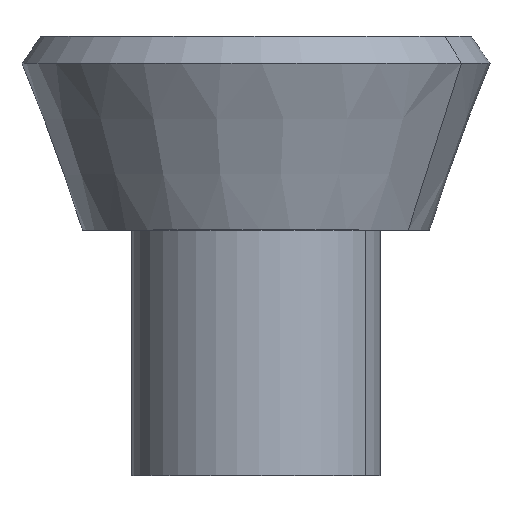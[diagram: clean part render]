
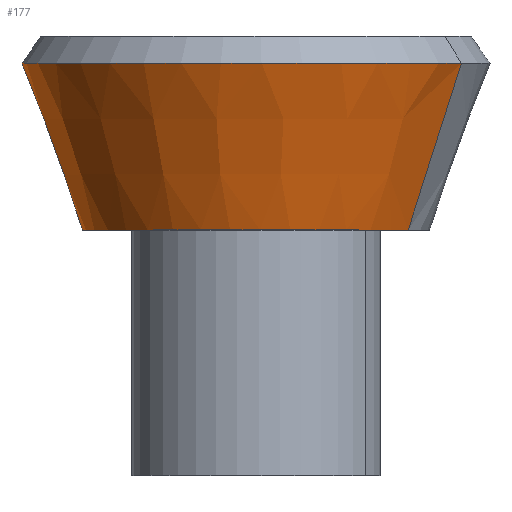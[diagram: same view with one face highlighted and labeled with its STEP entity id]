
A CAD part, top view. The second image highlights one B-rep face of the part: STEP entity #177.
In plain terms, the highlighted conical face has half-angle 20 degrees and reference radius 106 mm.
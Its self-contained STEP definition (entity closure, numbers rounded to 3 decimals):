
#114=CARTESIAN_POINT('Axis2P3D Location',(0.,0.,0.)) ;
#118=CARTESIAN_POINT('Vertex',(93.024,0.,50.819)) ;
#120=CARTESIAN_POINT('Vertex',(-93.024,0.,-50.819)) ;
#147=CARTESIAN_POINT('Axis2P3D Location',(0.,0.,0.)) ;
#152=CARTESIAN_POINT('Line Origine',(109.317,51.009,59.72)) ;
#156=CARTESIAN_POINT('Vertex',(125.61,102.018,68.621)) ;
#159=CARTESIAN_POINT('Axis2P3D Location',(0.,102.018,0.)) ;
#163=CARTESIAN_POINT('Vertex',(-125.61,102.018,-68.621)) ;
#166=CARTESIAN_POINT('Line Origine',(-109.317,51.009,-59.72)) ;
#115=DIRECTION('Axis2P3D Direction',(0.,-1.,0.)) ;
#148=DIRECTION('Axis2P3D Direction',(-0.,1.,-0.)) ;
#149=DIRECTION('Axis2P3D XDirection',(0.878,0.,0.479)) ;
#153=DIRECTION('Vector Direction',(0.3,0.94,0.164)) ;
#160=DIRECTION('Axis2P3D Direction',(0.,1.,-0.)) ;
#167=DIRECTION('Vector Direction',(-0.3,0.94,-0.164)) ;
#116=AXIS2_PLACEMENT_3D('Circle Axis2P3D',#114,#115,$) ;
#150=AXIS2_PLACEMENT_3D('Cone Axis2P3D',#147,#148,#149) ;
#161=AXIS2_PLACEMENT_3D('Circle Axis2P3D',#159,#160,$) ;
#172=ORIENTED_EDGE('',*,*,#122,.F.) ;
#173=ORIENTED_EDGE('',*,*,#158,.T.) ;
#174=ORIENTED_EDGE('',*,*,#165,.T.) ;
#175=ORIENTED_EDGE('',*,*,#170,.F.) ;
#154=VECTOR('Line Direction',#153,1.) ;
#168=VECTOR('Line Direction',#167,1.) ;
#177=ADVANCED_FACE('PartBody',(#176),#151,.T.) ;
#117=CIRCLE('generated circle',#116,106.) ;
#162=CIRCLE('generated circle',#161,143.132) ;
#151=CONICAL_SURFACE('Cone',#150,106.,0.349) ;
#122=EDGE_CURVE('',#119,#121,#117,.T.) ;
#158=EDGE_CURVE('',#119,#157,#155,.T.) ;
#165=EDGE_CURVE('',#157,#164,#162,.F.) ;
#170=EDGE_CURVE('',#121,#164,#169,.T.) ;
#171=EDGE_LOOP('',(#172,#173,#174,#175)) ;
#176=FACE_OUTER_BOUND('',#171,.T.) ;
#155=LINE('Line',#152,#154) ;
#169=LINE('Line',#166,#168) ;
#119=VERTEX_POINT('',#118) ;
#121=VERTEX_POINT('',#120) ;
#157=VERTEX_POINT('',#156) ;
#164=VERTEX_POINT('',#163) ;
